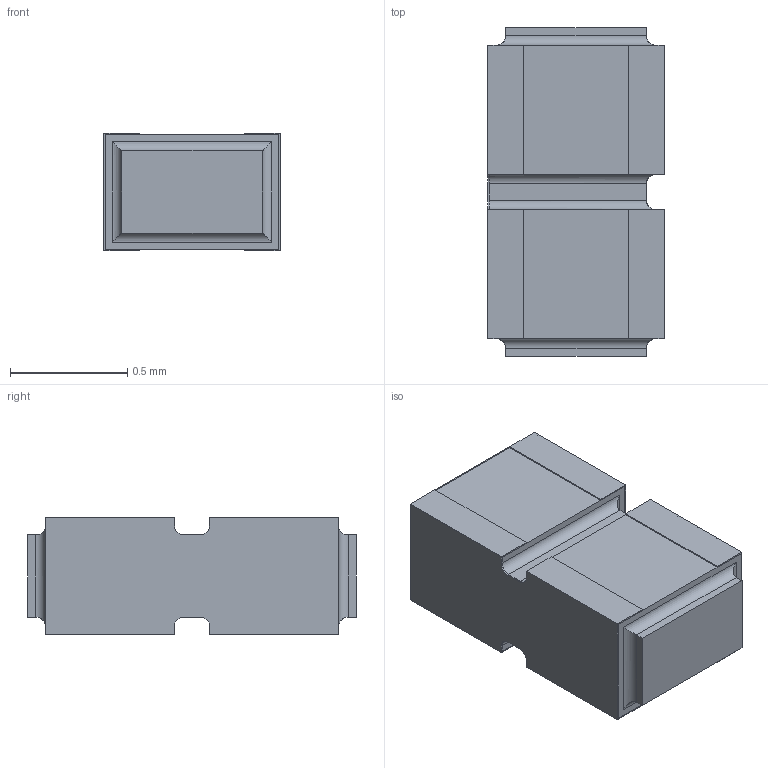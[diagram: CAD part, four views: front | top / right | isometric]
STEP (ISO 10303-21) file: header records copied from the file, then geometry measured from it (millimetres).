
FILE_DESCRIPTION(/* description */ (''),/* implementation_level */ '2;1');
FILE_NAME(/* name */ 'S:\DOCUMENT\AUTOCAD\3D_Modèles\10_3D-pour-VISHAY-COM\PRA\PRA073\PRA073-C2_à_C8\10_IGES\PRA073C2_B-or-N-or-G.stp',/* time_stamp */ '2017-12-21T10:43:19+01:00',/* author */ ('dparmentier'),/* organization */ ('unknown'),/* preprocessor_version */ 'ST-DEVELOPER v17',/* originating_system */ 'Autodesk Inventor 2018',/* authorisation */ '');
FILE_SCHEMA (('AUTOMOTIVE_DESIGN { 1 0 10303 214 3 1 1 }'));
Length unit declared in the file: millimetre
Products named in the file (1): PRA073C2_B-or-N-or-G
Bounding box: 0.75 x 1.4 x 0.5 mm (x, y, z)
Volume: 0.5 mm3; surface area: 7.8 mm2
Topology: 4 solids, 4 shells, 84 faces, 210 edges, 136 vertices
Faces by surface type: plane 66, cylinder 18
Entity records: 2512 total; most frequent: CARTESIAN_POINT 431, ORIENTED_EDGE 420, DIRECTION 404, EDGE_CURVE 210, LINE 186, VECTOR 186, VERTEX_POINT 136, AXIS2_PLACEMENT_3D 109
